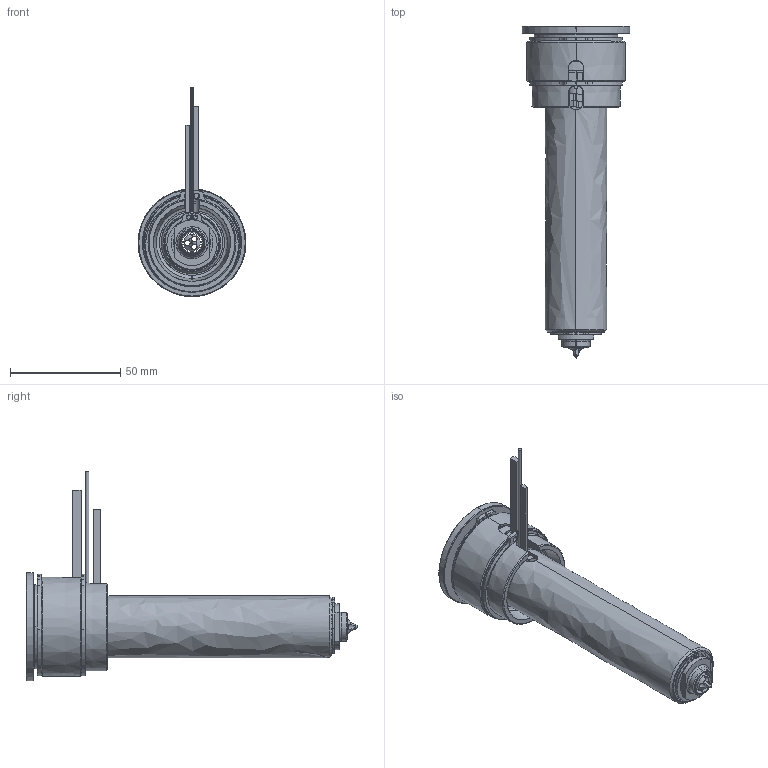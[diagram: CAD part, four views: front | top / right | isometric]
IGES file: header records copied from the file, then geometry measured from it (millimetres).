
Start section: SolidWorks IGES file using analytic representation for surfaces
Global section: file name: C:\Documents and Settings\ws-20\Desktop\TEM\UGEP4503-S-A-0 [Øf-0.88 ØC-09].IGS; native system: SolidWorks 2012; preprocessor: SolidWorks 2012; author: ws-20; date: 120424.085638; units: millimetre
Bounding box: 49 x 150.8 x 95.15 mm (x, y, z)
Surface area: 56736 mm2 (no closed solid volume)
Topology: 0 solids, 0 shells, 186 faces, 3534 edges, 3534 vertices
Faces by surface type: revolution 120, bspline 66
